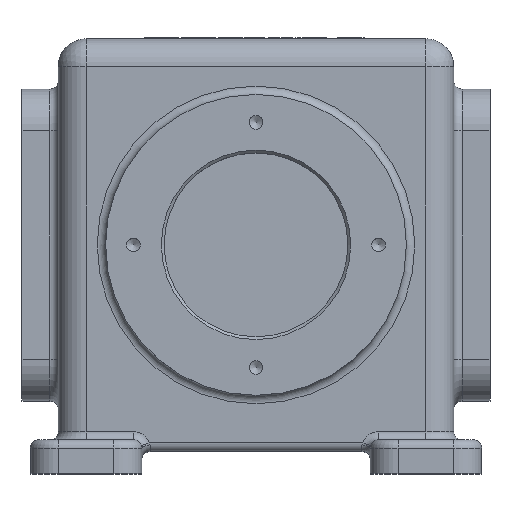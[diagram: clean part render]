
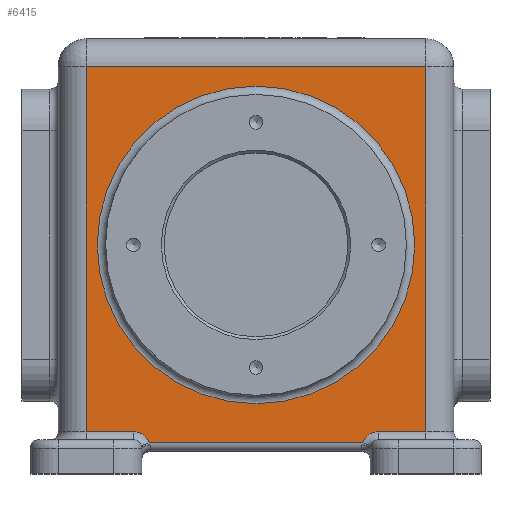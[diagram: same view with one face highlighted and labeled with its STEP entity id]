
A CAD part, top view. The second image highlights one B-rep face of the part: STEP entity #6415.
In plain terms, the highlighted planar face has unit normal (0, 0, 1).
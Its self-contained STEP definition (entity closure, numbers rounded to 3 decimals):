
#188=CIRCLE('',#6758,6.);
#226=CIRCLE('',#6818,6.);
#232=CIRCLE('',#6827,57.);
#412=FACE_BOUND('',#1164,.T.);
#751=FACE_OUTER_BOUND('',#1163,.T.);
#1163=EDGE_LOOP('',(#5415,#5416,#5417,#5418,#5419,#5420,#5421,#5422));
#1164=EDGE_LOOP('',(#5423));
#1724=LINE('',#10737,#2283);
#1749=LINE('',#10926,#2308);
#1751=LINE('',#10977,#2310);
#1753=LINE('',#10983,#2312);
#1754=LINE('',#10984,#2313);
#1755=LINE('',#10985,#2314);
#2283=VECTOR('',#7874,10.);
#2308=VECTOR('',#8007,10.);
#2310=VECTOR('',#8027,10.);
#2312=VECTOR('',#8033,10.);
#2313=VECTOR('',#8034,10.);
#2314=VECTOR('',#8035,10.);
#3010=VERTEX_POINT('',#10720);
#3012=VERTEX_POINT('',#10729);
#3014=VERTEX_POINT('',#10735);
#3052=VERTEX_POINT('',#10918);
#3054=VERTEX_POINT('',#10924);
#3056=VERTEX_POINT('',#10930);
#3059=VERTEX_POINT('',#10976);
#3061=VERTEX_POINT('',#10982);
#3062=VERTEX_POINT('',#10986);
#3800=EDGE_CURVE('',#3012,#3010,#188,.T.);
#3803=EDGE_CURVE('',#3014,#3012,#1724,.T.);
#3866=EDGE_CURVE('',#3054,#3052,#1749,.T.);
#3869=EDGE_CURVE('',#3056,#3054,#226,.T.);
#3876=EDGE_CURVE('',#3052,#3059,#1751,.T.);
#3879=EDGE_CURVE('',#3014,#3061,#1753,.T.);
#3880=EDGE_CURVE('',#3059,#3061,#1754,.T.);
#3881=EDGE_CURVE('',#3010,#3056,#1755,.T.);
#3882=EDGE_CURVE('',#3062,#3062,#232,.T.);
#5415=ORIENTED_EDGE('',*,*,#3803,.F.);
#5416=ORIENTED_EDGE('',*,*,#3879,.T.);
#5417=ORIENTED_EDGE('',*,*,#3880,.F.);
#5418=ORIENTED_EDGE('',*,*,#3876,.F.);
#5419=ORIENTED_EDGE('',*,*,#3866,.F.);
#5420=ORIENTED_EDGE('',*,*,#3869,.F.);
#5421=ORIENTED_EDGE('',*,*,#3881,.F.);
#5422=ORIENTED_EDGE('',*,*,#3800,.F.);
#5423=ORIENTED_EDGE('',*,*,#3882,.F.);
#6141=PLANE('',#6826);
#6415=ADVANCED_FACE('',(#751,#412),#6141,.T.);
#6758=AXIS2_PLACEMENT_3D('',#10731,#7866,#7867);
#6818=AXIS2_PLACEMENT_3D('',#10932,#8013,#8014);
#6826=AXIS2_PLACEMENT_3D('',#10981,#8031,#8032);
#6827=AXIS2_PLACEMENT_3D('',#10987,#8036,#8037);
#7866=DIRECTION('center_axis',(0.,0.,1.));
#7867=DIRECTION('ref_axis',(-0.408,0.913,0.));
#7874=DIRECTION('',(-1.,0.,0.));
#8007=DIRECTION('',(-1.,0.,0.));
#8013=DIRECTION('center_axis',(0.,0.,1.));
#8014=DIRECTION('ref_axis',(0.408,0.913,0.));
#8027=DIRECTION('',(0.,1.,0.));
#8031=DIRECTION('center_axis',(0.,0.,1.));
#8032=DIRECTION('ref_axis',(1.,0.,0.));
#8033=DIRECTION('',(0.,1.,0.));
#8034=DIRECTION('',(1.,0.,0.));
#8035=DIRECTION('',(-1.,0.,0.));
#8036=DIRECTION('center_axis',(0.,0.,1.));
#8037=DIRECTION('ref_axis',(0.,-1.,0.));
#10720=CARTESIAN_POINT('',(38.343,3.,74.));
#10729=CARTESIAN_POINT('',(44.,7.,74.));
#10731=CARTESIAN_POINT('Origin',(44.,1.,74.));
#10735=CARTESIAN_POINT('',(61.,7.,74.));
#10737=CARTESIAN_POINT('',(0.,7.,74.));
#10918=CARTESIAN_POINT('',(-61.,7.,74.));
#10924=CARTESIAN_POINT('',(-44.,7.,74.));
#10926=CARTESIAN_POINT('',(-61.,7.,74.));
#10930=CARTESIAN_POINT('',(-38.343,3.,74.));
#10932=CARTESIAN_POINT('Origin',(-44.,1.,74.));
#10976=CARTESIAN_POINT('',(-61.,138.,74.));
#10977=CARTESIAN_POINT('',(-61.,0.,74.));
#10981=CARTESIAN_POINT('Origin',(-61.,0.,74.));
#10982=CARTESIAN_POINT('',(61.,138.,74.));
#10983=CARTESIAN_POINT('',(61.,0.,74.));
#10984=CARTESIAN_POINT('',(-30.5,138.,74.));
#10985=CARTESIAN_POINT('',(-30.5,3.,74.));
#10986=CARTESIAN_POINT('',(57.,74.,74.));
#10987=CARTESIAN_POINT('Origin',(0.,74.,74.));
